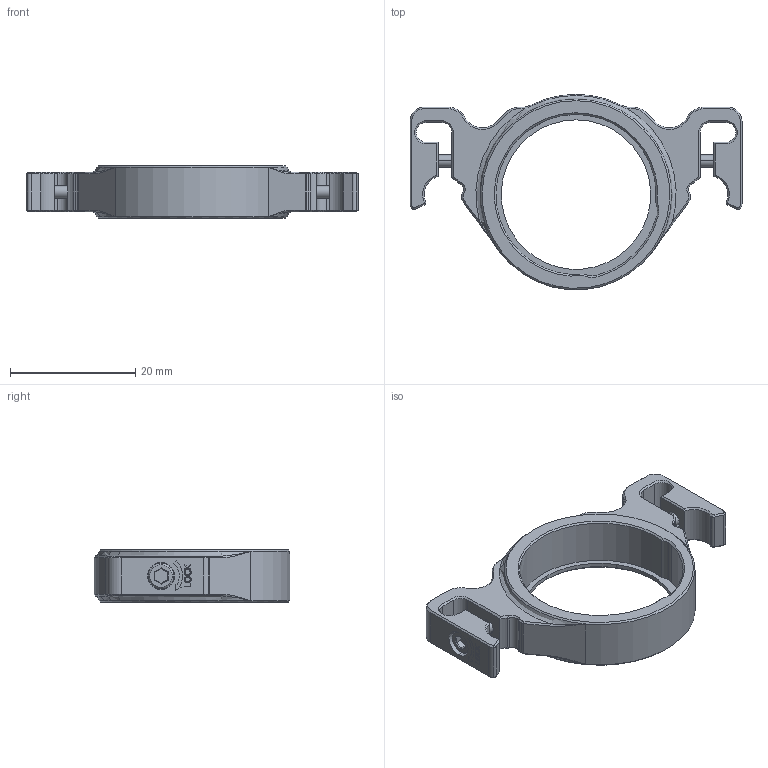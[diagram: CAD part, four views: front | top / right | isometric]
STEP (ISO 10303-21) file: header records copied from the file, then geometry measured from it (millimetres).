
FILE_DESCRIPTION((''),'2;1');
FILE_NAME('CSD-M1_ASM','2020-10-15T',('Administrator'),(''),'CREO PARAMETRIC BY PTC INC, 2017300','CREO PARAMETRIC BY PTC INC, 2017300','');
FILE_SCHEMA(('CONFIG_CONTROL_DESIGN'));
Length unit declared in the file: millimetre
Products named in the file (5): M2X8_HM_2; M4X3_HSP; CSD-M1_A1; M2X8_HM; CSD-M1_ASM
Assembly tree (4 placements, depth 2):
  CSD-M1_ASM
    M2X8_HM_2
    M4X3_HSP
    CSD-M1_A1
    M2X8_HM
Bounding box: 53.04 x 31.19 x 8.38 mm (x, y, z)
Volume: 3678.1 mm3; surface area: 3790.6 mm2
Topology: 4 solids, 4 shells, 539 faces, 1351 edges, 833 vertices
Faces by surface type: plane 181, cylinder 148, cone 118, extrusion 50, bspline 40, torus 2
Entity records: 23110 total; most frequent: CARTESIAN_POINT 10755, ORIENTED_EDGE 2686, DIRECTION 2257, EDGE_CURVE 1343, VERTEX_POINT 833, VECTOR 775, AXIS2_PLACEMENT_3D 741, LINE 725
